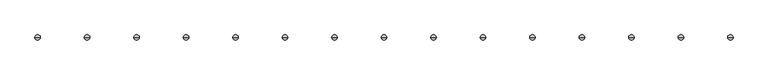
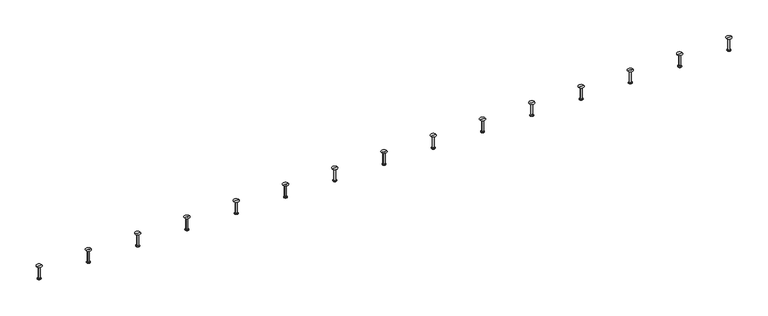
"""IFC4 building model written with IfcOpenShell, lengths in millimetres: fastener geometry, JTA-W JORDAHL® AnchorChannels : JTA-W L=6000 mm."""

from ifc_helpers import new_model, si_unit, frame, origin, place, context, project, spatial, polyline, circle_curve, source, transform, mapped, element, save
from ifc_brep_helpers import plane_surface, cylinder_surface, revolved_surface, advanced_brep


def fastener_ee92d8f7(model_context):
    return source(origin(), model_context, "Body", "AdvancedBrep", [
        advanced_brep(
        [(3991.6666667, 0.0, -22.0), (4005.1666667, 0.0, -22.0), (3978.1666667, 0.0, -22.0), (3983.1666667, 0.0, -90.0), (4000.1666667, 0.0, -90.0), (3991.6666667, 0.0, -90.0), (3983.1666667, 0.0, -88.0), (4000.1666667, 0.0, -88.0), (3987.1666667, 0.0, -85.6905989), (3996.1666667, 0.0, -85.6905989), (3987.1666667, 0.0, -24.5), (3996.1666667, 0.0, -24.5)],
        [
            (0, 1),
            (1, 2, circle_curve(frame((3991.6666667, 0.0, -22.0), z_axis=(0.0, 0.0, 1.0), x_axis=(1.0, 0.0, 0.0)), 13.5)),
            (2, 0),
            (2, 1, circle_curve(frame((3991.6666667, 0.0, -22.0), z_axis=(0.0, 0.0, 1.0), x_axis=(1.0, 0.0, 0.0)), 13.5)),
            (3, 4, circle_curve(frame((3991.6666667, 0.0, -90.0), z_axis=(0.0, 0.0, -1.0), x_axis=(1.0, 0.0, 0.0)), 8.5)),
            (4, 5),
            (5, 3),
            (4, 3, circle_curve(frame((3991.6666667, 0.0, -90.0), z_axis=(0.0, 0.0, -1.0), x_axis=(1.0, 0.0, 0.0)), 8.5)),
            (6, 7, circle_curve(frame((3991.6666667, 0.0, -88.0), z_axis=(0.0, 0.0, -1.0), x_axis=(1.0, 0.0, 0.0)), 8.5)),
            (7, 4),
            (3, 6),
            (7, 6, circle_curve(frame((3991.6666667, 0.0, -88.0), z_axis=(0.0, 0.0, -1.0), x_axis=(1.0, 0.0, 0.0)), 8.5)),
            (8, 9, circle_curve(frame((3991.6666667, 0.0, -85.6905989), z_axis=(0.0, 0.0, -1.0), x_axis=(1.0, 0.0, 0.0)), 4.5)),
            (9, 7),
            (6, 8),
            (9, 8, circle_curve(frame((3991.6666667, 0.0, -85.6905989), z_axis=(0.0, 0.0, -1.0), x_axis=(1.0, 0.0, 0.0)), 4.5)),
            (10, 11, circle_curve(frame((3991.6666667, 0.0, -24.5), z_axis=(0.0, 0.0, -1.0), x_axis=(1.0, 0.0, 0.0)), 4.5)),
            (11, 9),
            (8, 10),
            (11, 10, circle_curve(frame((3991.6666667, 0.0, -24.5), z_axis=(0.0, 0.0, -1.0), x_axis=(1.0, 0.0, 0.0)), 4.5)),
            (1, 11),
            (10, 2),
        ],
        [
            plane_surface(frame((3991.6666667, 0.0, -22.0), z_axis=(0.0, 0.0, 1.0), x_axis=(1.0, 0.0, 0.0))),
            plane_surface(frame((3991.6666667, 0.0, -90.0), z_axis=(0.0, 0.0, -1.0), x_axis=(1.0, 0.0, 0.0))),
            cylinder_surface(frame((3991.6666667, 0.0, 2282.3150031), z_axis=(0.0, 0.0, 1.0), x_axis=(1.0, 0.0, 0.0)), 8.5),
            revolved_surface(polyline([(4000.1666667, 0.0, -88.0), (3996.1666667, 0.0, -85.6905989)]), (3991.6666667, 0.0, 2282.3150031), (0.0, 0.0, 1.0)),
            cylinder_surface(frame((3991.6666667, 0.0, 2282.3150031), z_axis=(0.0, 0.0, 1.0), x_axis=(1.0, 0.0, 0.0)), 4.5),
            revolved_surface(polyline([(3996.1666667, 0.0, -24.5), (4005.1666667, 0.0, -22.0)]), (3991.6666667, 0.0, 2282.3150031), (0.0, 0.0, 1.0)),
        ],
        [
            (0, [[1, 2, 3]]),
            (0, [[-3, 4, -1]]),
            (1, [[5, 6, 7]]),
            (1, [[8, -7, -6]]),
            (2, [[9, 10, -5, 11]]),
            (2, [[12, -11, -8, -10]]),
            (3, [[13, 14, -9, 15]]),
            (3, [[16, -15, -12, -14]]),
            (4, [[17, 18, -13, 19]]),
            (4, [[20, -19, -16, -18]]),
            (5, [[-2, 21, -17, 22]]),
            (5, [[-4, -22, -20, -21]]),
        ],
    ),
        advanced_brep(
        [(3743.75, 0.0, -22.0), (3757.25, 0.0, -22.0), (3730.25, 0.0, -22.0), (3735.25, 0.0, -90.0), (3752.25, 0.0, -90.0), (3743.75, 0.0, -90.0), (3735.25, 0.0, -88.0), (3752.25, 0.0, -88.0), (3739.25, 0.0, -85.6905989), (3748.25, 0.0, -85.6905989), (3739.25, 0.0, -24.5), (3748.25, 0.0, -24.5)],
        [
            (0, 1),
            (1, 2, circle_curve(frame((3743.75, 0.0, -22.0), z_axis=(0.0, 0.0, 1.0), x_axis=(1.0, 0.0, 0.0)), 13.5)),
            (2, 0),
            (2, 1, circle_curve(frame((3743.75, 0.0, -22.0), z_axis=(0.0, 0.0, 1.0), x_axis=(1.0, 0.0, 0.0)), 13.5)),
            (3, 4, circle_curve(frame((3743.75, 0.0, -90.0), z_axis=(0.0, 0.0, -1.0), x_axis=(1.0, 0.0, 0.0)), 8.5)),
            (4, 5),
            (5, 3),
            (4, 3, circle_curve(frame((3743.75, 0.0, -90.0), z_axis=(0.0, 0.0, -1.0), x_axis=(1.0, 0.0, 0.0)), 8.5)),
            (6, 7, circle_curve(frame((3743.75, 0.0, -88.0), z_axis=(0.0, 0.0, -1.0), x_axis=(1.0, 0.0, 0.0)), 8.5)),
            (7, 4),
            (3, 6),
            (7, 6, circle_curve(frame((3743.75, 0.0, -88.0), z_axis=(0.0, 0.0, -1.0), x_axis=(1.0, 0.0, 0.0)), 8.5)),
            (8, 9, circle_curve(frame((3743.75, 0.0, -85.6905989), z_axis=(0.0, 0.0, -1.0), x_axis=(1.0, 0.0, 0.0)), 4.5)),
            (9, 7),
            (6, 8),
            (9, 8, circle_curve(frame((3743.75, 0.0, -85.6905989), z_axis=(0.0, 0.0, -1.0), x_axis=(1.0, 0.0, 0.0)), 4.5)),
            (10, 11, circle_curve(frame((3743.75, 0.0, -24.5), z_axis=(0.0, 0.0, -1.0), x_axis=(1.0, 0.0, 0.0)), 4.5)),
            (11, 9),
            (8, 10),
            (11, 10, circle_curve(frame((3743.75, 0.0, -24.5), z_axis=(0.0, 0.0, -1.0), x_axis=(1.0, 0.0, 0.0)), 4.5)),
            (1, 11),
            (10, 2),
        ],
        [
            plane_surface(frame((3743.75, 0.0, -22.0), z_axis=(0.0, 0.0, 1.0), x_axis=(1.0, 0.0, 0.0))),
            plane_surface(frame((3743.75, 0.0, -90.0), z_axis=(0.0, 0.0, -1.0), x_axis=(1.0, 0.0, 0.0))),
            cylinder_surface(frame((3743.75, 0.0, 2282.3150031), z_axis=(0.0, 0.0, 1.0), x_axis=(1.0, 0.0, 0.0)), 8.5),
            revolved_surface(polyline([(3752.25, 0.0, -88.0), (3748.25, 0.0, -85.6905989)]), (3743.75, 0.0, 2282.3150031), (0.0, 0.0, 1.0)),
            cylinder_surface(frame((3743.75, 0.0, 2282.3150031), z_axis=(0.0, 0.0, 1.0), x_axis=(1.0, 0.0, 0.0)), 4.5),
            revolved_surface(polyline([(3748.25, 0.0, -24.5), (3757.25, 0.0, -22.0)]), (3743.75, 0.0, 2282.3150031), (0.0, 0.0, 1.0)),
        ],
        [
            (0, [[1, 2, 3]]),
            (0, [[-3, 4, -1]]),
            (1, [[5, 6, 7]]),
            (1, [[8, -7, -6]]),
            (2, [[9, 10, -5, 11]]),
            (2, [[12, -11, -8, -10]]),
            (3, [[13, 14, -9, 15]]),
            (3, [[16, -15, -12, -14]]),
            (4, [[17, 18, -13, 19]]),
            (4, [[20, -19, -16, -18]]),
            (5, [[-2, 21, -17, 22]]),
            (5, [[-4, -22, -20, -21]]),
        ],
    ),
        advanced_brep(
        [(3495.8333333, 0.0, -22.0), (3509.3333333, 0.0, -22.0), (3482.3333333, 0.0, -22.0), (3487.3333333, 0.0, -90.0), (3504.3333333, 0.0, -90.0), (3495.8333333, 0.0, -90.0), (3487.3333333, 0.0, -88.0), (3504.3333333, 0.0, -88.0), (3491.3333333, 0.0, -85.6905989), (3500.3333333, 0.0, -85.6905989), (3491.3333333, 0.0, -24.5), (3500.3333333, 0.0, -24.5)],
        [
            (0, 1),
            (1, 2, circle_curve(frame((3495.8333333, 0.0, -22.0), z_axis=(0.0, 0.0, 1.0), x_axis=(1.0, 0.0, 0.0)), 13.5)),
            (2, 0),
            (2, 1, circle_curve(frame((3495.8333333, 0.0, -22.0), z_axis=(0.0, 0.0, 1.0), x_axis=(1.0, 0.0, 0.0)), 13.5)),
            (3, 4, circle_curve(frame((3495.8333333, 0.0, -90.0), z_axis=(0.0, 0.0, -1.0), x_axis=(1.0, 0.0, 0.0)), 8.5)),
            (4, 5),
            (5, 3),
            (4, 3, circle_curve(frame((3495.8333333, 0.0, -90.0), z_axis=(0.0, 0.0, -1.0), x_axis=(1.0, 0.0, 0.0)), 8.5)),
            (6, 7, circle_curve(frame((3495.8333333, 0.0, -88.0), z_axis=(0.0, 0.0, -1.0), x_axis=(1.0, 0.0, 0.0)), 8.5)),
            (7, 4),
            (3, 6),
            (7, 6, circle_curve(frame((3495.8333333, 0.0, -88.0), z_axis=(0.0, 0.0, -1.0), x_axis=(1.0, 0.0, 0.0)), 8.5)),
            (8, 9, circle_curve(frame((3495.8333333, 0.0, -85.6905989), z_axis=(0.0, 0.0, -1.0), x_axis=(1.0, 0.0, 0.0)), 4.5)),
            (9, 7),
            (6, 8),
            (9, 8, circle_curve(frame((3495.8333333, 0.0, -85.6905989), z_axis=(0.0, 0.0, -1.0), x_axis=(1.0, 0.0, 0.0)), 4.5)),
            (10, 11, circle_curve(frame((3495.8333333, 0.0, -24.5), z_axis=(0.0, 0.0, -1.0), x_axis=(1.0, 0.0, 0.0)), 4.5)),
            (11, 9),
            (8, 10),
            (11, 10, circle_curve(frame((3495.8333333, 0.0, -24.5), z_axis=(0.0, 0.0, -1.0), x_axis=(1.0, 0.0, 0.0)), 4.5)),
            (1, 11),
            (10, 2),
        ],
        [
            plane_surface(frame((3495.8333333, 0.0, -22.0), z_axis=(0.0, 0.0, 1.0), x_axis=(1.0, 0.0, 0.0))),
            plane_surface(frame((3495.8333333, 0.0, -90.0), z_axis=(0.0, 0.0, -1.0), x_axis=(1.0, 0.0, 0.0))),
            cylinder_surface(frame((3495.8333333, 0.0, 2282.3150031), z_axis=(0.0, 0.0, 1.0), x_axis=(1.0, 0.0, 0.0)), 8.5),
            revolved_surface(polyline([(3504.3333333, 0.0, -88.0), (3500.3333333, 0.0, -85.6905989)]), (3495.8333333, 0.0, 2282.3150031), (0.0, 0.0, 1.0)),
            cylinder_surface(frame((3495.8333333, 0.0, 2282.3150031), z_axis=(0.0, 0.0, 1.0), x_axis=(1.0, 0.0, 0.0)), 4.5),
            revolved_surface(polyline([(3500.3333333, 0.0, -24.5), (3509.3333333, 0.0, -22.0)]), (3495.8333333, 0.0, 2282.3150031), (0.0, 0.0, 1.0)),
        ],
        [
            (0, [[1, 2, 3]]),
            (0, [[-3, 4, -1]]),
            (1, [[5, 6, 7]]),
            (1, [[8, -7, -6]]),
            (2, [[9, 10, -5, 11]]),
            (2, [[12, -11, -8, -10]]),
            (3, [[13, 14, -9, 15]]),
            (3, [[16, -15, -12, -14]]),
            (4, [[17, 18, -13, 19]]),
            (4, [[20, -19, -16, -18]]),
            (5, [[-2, 21, -17, 22]]),
            (5, [[-4, -22, -20, -21]]),
        ],
    ),
        advanced_brep(
        [(3247.9166667, 0.0, -22.0), (3261.4166667, 0.0, -22.0), (3234.4166667, 0.0, -22.0), (3239.4166667, 0.0, -90.0), (3256.4166667, 0.0, -90.0), (3247.9166667, 0.0, -90.0), (3239.4166667, 0.0, -88.0), (3256.4166667, 0.0, -88.0), (3243.4166667, 0.0, -85.6905989), (3252.4166667, 0.0, -85.6905989), (3243.4166667, 0.0, -24.5), (3252.4166667, 0.0, -24.5)],
        [
            (0, 1),
            (1, 2, circle_curve(frame((3247.9166667, 0.0, -22.0), z_axis=(0.0, 0.0, 1.0), x_axis=(1.0, 0.0, 0.0)), 13.5)),
            (2, 0),
            (2, 1, circle_curve(frame((3247.9166667, 0.0, -22.0), z_axis=(0.0, 0.0, 1.0), x_axis=(1.0, 0.0, 0.0)), 13.5)),
            (3, 4, circle_curve(frame((3247.9166667, 0.0, -90.0), z_axis=(0.0, 0.0, -1.0), x_axis=(1.0, 0.0, 0.0)), 8.5)),
            (4, 5),
            (5, 3),
            (4, 3, circle_curve(frame((3247.9166667, 0.0, -90.0), z_axis=(0.0, 0.0, -1.0), x_axis=(1.0, 0.0, 0.0)), 8.5)),
            (6, 7, circle_curve(frame((3247.9166667, 0.0, -88.0), z_axis=(0.0, 0.0, -1.0), x_axis=(1.0, 0.0, 0.0)), 8.5)),
            (7, 4),
            (3, 6),
            (7, 6, circle_curve(frame((3247.9166667, 0.0, -88.0), z_axis=(0.0, 0.0, -1.0), x_axis=(1.0, 0.0, 0.0)), 8.5)),
            (8, 9, circle_curve(frame((3247.9166667, 0.0, -85.6905989), z_axis=(0.0, 0.0, -1.0), x_axis=(1.0, 0.0, 0.0)), 4.5)),
            (9, 7),
            (6, 8),
            (9, 8, circle_curve(frame((3247.9166667, 0.0, -85.6905989), z_axis=(0.0, 0.0, -1.0), x_axis=(1.0, 0.0, 0.0)), 4.5)),
            (10, 11, circle_curve(frame((3247.9166667, 0.0, -24.5), z_axis=(0.0, 0.0, -1.0), x_axis=(1.0, 0.0, 0.0)), 4.5)),
            (11, 9),
            (8, 10),
            (11, 10, circle_curve(frame((3247.9166667, 0.0, -24.5), z_axis=(0.0, 0.0, -1.0), x_axis=(1.0, 0.0, 0.0)), 4.5)),
            (1, 11),
            (10, 2),
        ],
        [
            plane_surface(frame((3247.9166667, 0.0, -22.0), z_axis=(0.0, 0.0, 1.0), x_axis=(1.0, 0.0, 0.0))),
            plane_surface(frame((3247.9166667, 0.0, -90.0), z_axis=(0.0, 0.0, -1.0), x_axis=(1.0, 0.0, 0.0))),
            cylinder_surface(frame((3247.9166667, 0.0, 2282.3150031), z_axis=(0.0, 0.0, 1.0), x_axis=(1.0, 0.0, 0.0)), 8.5),
            revolved_surface(polyline([(3256.4166667, 0.0, -88.0), (3252.4166667, 0.0, -85.6905989)]), (3247.9166667, 0.0, 2282.3150031), (0.0, 0.0, 1.0)),
            cylinder_surface(frame((3247.9166667, 0.0, 2282.3150031), z_axis=(0.0, 0.0, 1.0), x_axis=(1.0, 0.0, 0.0)), 4.5),
            revolved_surface(polyline([(3252.4166667, 0.0, -24.5), (3261.4166667, 0.0, -22.0)]), (3247.9166667, 0.0, 2282.3150031), (0.0, 0.0, 1.0)),
        ],
        [
            (0, [[1, 2, 3]]),
            (0, [[-3, 4, -1]]),
            (1, [[5, 6, 7]]),
            (1, [[8, -7, -6]]),
            (2, [[9, 10, -5, 11]]),
            (2, [[12, -11, -8, -10]]),
            (3, [[13, 14, -9, 15]]),
            (3, [[16, -15, -12, -14]]),
            (4, [[17, 18, -13, 19]]),
            (4, [[20, -19, -16, -18]]),
            (5, [[-2, 21, -17, 22]]),
            (5, [[-4, -22, -20, -21]]),
        ],
    ),
        advanced_brep(
        [(3000.0, 0.0, -22.0), (3013.5, 0.0, -22.0), (2986.5, 0.0, -22.0), (2991.5, 0.0, -90.0), (3008.5, 0.0, -90.0), (3000.0, 0.0, -90.0), (2991.5, 0.0, -88.0), (3008.5, 0.0, -88.0), (2995.5, 0.0, -85.6905989), (3004.5, 0.0, -85.6905989), (2995.5, 0.0, -24.5), (3004.5, 0.0, -24.5)],
        [
            (0, 1),
            (1, 2, circle_curve(frame((3000.0, 0.0, -22.0), z_axis=(0.0, 0.0, 1.0), x_axis=(1.0, 0.0, 0.0)), 13.5)),
            (2, 0),
            (2, 1, circle_curve(frame((3000.0, 0.0, -22.0), z_axis=(0.0, 0.0, 1.0), x_axis=(1.0, 0.0, 0.0)), 13.5)),
            (3, 4, circle_curve(frame((3000.0, 0.0, -90.0), z_axis=(0.0, 0.0, -1.0), x_axis=(1.0, 0.0, 0.0)), 8.5)),
            (4, 5),
            (5, 3),
            (4, 3, circle_curve(frame((3000.0, 0.0, -90.0), z_axis=(0.0, 0.0, -1.0), x_axis=(1.0, 0.0, 0.0)), 8.5)),
            (6, 7, circle_curve(frame((3000.0, 0.0, -88.0), z_axis=(0.0, 0.0, -1.0), x_axis=(1.0, 0.0, 0.0)), 8.5)),
            (7, 4),
            (3, 6),
            (7, 6, circle_curve(frame((3000.0, 0.0, -88.0), z_axis=(0.0, 0.0, -1.0), x_axis=(1.0, 0.0, 0.0)), 8.5)),
            (8, 9, circle_curve(frame((3000.0, 0.0, -85.6905989), z_axis=(0.0, 0.0, -1.0), x_axis=(1.0, 0.0, 0.0)), 4.5)),
            (9, 7),
            (6, 8),
            (9, 8, circle_curve(frame((3000.0, 0.0, -85.6905989), z_axis=(0.0, 0.0, -1.0), x_axis=(1.0, 0.0, 0.0)), 4.5)),
            (10, 11, circle_curve(frame((3000.0, 0.0, -24.5), z_axis=(0.0, 0.0, -1.0), x_axis=(1.0, 0.0, 0.0)), 4.5)),
            (11, 9),
            (8, 10),
            (11, 10, circle_curve(frame((3000.0, 0.0, -24.5), z_axis=(0.0, 0.0, -1.0), x_axis=(1.0, 0.0, 0.0)), 4.5)),
            (1, 11),
            (10, 2),
        ],
        [
            plane_surface(frame((3000.0, 0.0, -22.0), z_axis=(0.0, 0.0, 1.0), x_axis=(1.0, 0.0, 0.0))),
            plane_surface(frame((3000.0, 0.0, -90.0), z_axis=(0.0, 0.0, -1.0), x_axis=(1.0, 0.0, 0.0))),
            cylinder_surface(frame((3000.0, 0.0, 2282.3150031), z_axis=(0.0, 0.0, 1.0), x_axis=(1.0, 0.0, 0.0)), 8.5),
            revolved_surface(polyline([(3008.5, 0.0, -88.0), (3004.5, 0.0, -85.6905989)]), (3000.0, 0.0, 2282.3150031), (0.0, 0.0, 1.0)),
            cylinder_surface(frame((3000.0, 0.0, 2282.3150031), z_axis=(0.0, 0.0, 1.0), x_axis=(1.0, 0.0, 0.0)), 4.5),
            revolved_surface(polyline([(3004.5, 0.0, -24.5), (3013.5, 0.0, -22.0)]), (3000.0, 0.0, 2282.3150031), (0.0, 0.0, 1.0)),
        ],
        [
            (0, [[1, 2, 3]]),
            (0, [[-3, 4, -1]]),
            (1, [[5, 6, 7]]),
            (1, [[8, -7, -6]]),
            (2, [[9, 10, -5, 11]]),
            (2, [[12, -11, -8, -10]]),
            (3, [[13, 14, -9, 15]]),
            (3, [[16, -15, -12, -14]]),
            (4, [[17, 18, -13, 19]]),
            (4, [[20, -19, -16, -18]]),
            (5, [[-2, 21, -17, 22]]),
            (5, [[-4, -22, -20, -21]]),
        ],
    ),
        advanced_brep(
        [(2752.0833333, 0.0, -22.0), (2765.5833333, 0.0, -22.0), (2738.5833333, 0.0, -22.0), (2743.5833333, 0.0, -90.0), (2760.5833333, 0.0, -90.0), (2752.0833333, 0.0, -90.0), (2743.5833333, 0.0, -88.0), (2760.5833333, 0.0, -88.0), (2747.5833333, 0.0, -85.6905989), (2756.5833333, 0.0, -85.6905989), (2747.5833333, 0.0, -24.5), (2756.5833333, 0.0, -24.5)],
        [
            (0, 1),
            (1, 2, circle_curve(frame((2752.0833333, 0.0, -22.0), z_axis=(0.0, 0.0, 1.0), x_axis=(1.0, 0.0, 0.0)), 13.5)),
            (2, 0),
            (2, 1, circle_curve(frame((2752.0833333, 0.0, -22.0), z_axis=(0.0, 0.0, 1.0), x_axis=(1.0, 0.0, 0.0)), 13.5)),
            (3, 4, circle_curve(frame((2752.0833333, 0.0, -90.0), z_axis=(0.0, 0.0, -1.0), x_axis=(1.0, 0.0, 0.0)), 8.5)),
            (4, 5),
            (5, 3),
            (4, 3, circle_curve(frame((2752.0833333, 0.0, -90.0), z_axis=(0.0, 0.0, -1.0), x_axis=(1.0, 0.0, 0.0)), 8.5)),
            (6, 7, circle_curve(frame((2752.0833333, 0.0, -88.0), z_axis=(0.0, 0.0, -1.0), x_axis=(1.0, 0.0, 0.0)), 8.5)),
            (7, 4),
            (3, 6),
            (7, 6, circle_curve(frame((2752.0833333, 0.0, -88.0), z_axis=(0.0, 0.0, -1.0), x_axis=(1.0, 0.0, 0.0)), 8.5)),
            (8, 9, circle_curve(frame((2752.0833333, 0.0, -85.6905989), z_axis=(0.0, 0.0, -1.0), x_axis=(1.0, 0.0, 0.0)), 4.5)),
            (9, 7),
            (6, 8),
            (9, 8, circle_curve(frame((2752.0833333, 0.0, -85.6905989), z_axis=(0.0, 0.0, -1.0), x_axis=(1.0, 0.0, 0.0)), 4.5)),
            (10, 11, circle_curve(frame((2752.0833333, 0.0, -24.5), z_axis=(0.0, 0.0, -1.0), x_axis=(1.0, 0.0, 0.0)), 4.5)),
            (11, 9),
            (8, 10),
            (11, 10, circle_curve(frame((2752.0833333, 0.0, -24.5), z_axis=(0.0, 0.0, -1.0), x_axis=(1.0, 0.0, 0.0)), 4.5)),
            (1, 11),
            (10, 2),
        ],
        [
            plane_surface(frame((2752.0833333, 0.0, -22.0), z_axis=(0.0, 0.0, 1.0), x_axis=(1.0, 0.0, 0.0))),
            plane_surface(frame((2752.0833333, 0.0, -90.0), z_axis=(0.0, 0.0, -1.0), x_axis=(1.0, 0.0, 0.0))),
            cylinder_surface(frame((2752.0833333, 0.0, 2282.3150031), z_axis=(0.0, 0.0, 1.0), x_axis=(1.0, 0.0, 0.0)), 8.5),
            revolved_surface(polyline([(2760.5833333, 0.0, -88.0), (2756.5833333, 0.0, -85.6905989)]), (2752.0833333, 0.0, 2282.3150031), (0.0, 0.0, 1.0)),
            cylinder_surface(frame((2752.0833333, 0.0, 2282.3150031), z_axis=(0.0, 0.0, 1.0), x_axis=(1.0, 0.0, 0.0)), 4.5),
            revolved_surface(polyline([(2756.5833333, 0.0, -24.5), (2765.5833333, 0.0, -22.0)]), (2752.0833333, 0.0, 2282.3150031), (0.0, 0.0, 1.0)),
        ],
        [
            (0, [[1, 2, 3]]),
            (0, [[-3, 4, -1]]),
            (1, [[5, 6, 7]]),
            (1, [[8, -7, -6]]),
            (2, [[9, 10, -5, 11]]),
            (2, [[12, -11, -8, -10]]),
            (3, [[13, 14, -9, 15]]),
            (3, [[16, -15, -12, -14]]),
            (4, [[17, 18, -13, 19]]),
            (4, [[20, -19, -16, -18]]),
            (5, [[-2, 21, -17, 22]]),
            (5, [[-4, -22, -20, -21]]),
        ],
    ),
        advanced_brep(
        [(2504.1666667, 0.0, -22.0), (2517.6666667, 0.0, -22.0), (2490.6666667, 0.0, -22.0), (2495.6666667, 0.0, -90.0), (2512.6666667, 0.0, -90.0), (2504.1666667, 0.0, -90.0), (2495.6666667, 0.0, -88.0), (2512.6666667, 0.0, -88.0), (2499.6666667, 0.0, -85.6905989), (2508.6666667, 0.0, -85.6905989), (2499.6666667, 0.0, -24.5), (2508.6666667, 0.0, -24.5)],
        [
            (0, 1),
            (1, 2, circle_curve(frame((2504.1666667, 0.0, -22.0), z_axis=(0.0, 0.0, 1.0), x_axis=(1.0, 0.0, 0.0)), 13.5)),
            (2, 0),
            (2, 1, circle_curve(frame((2504.1666667, 0.0, -22.0), z_axis=(0.0, 0.0, 1.0), x_axis=(1.0, 0.0, 0.0)), 13.5)),
            (3, 4, circle_curve(frame((2504.1666667, 0.0, -90.0), z_axis=(0.0, 0.0, -1.0), x_axis=(1.0, 0.0, 0.0)), 8.5)),
            (4, 5),
            (5, 3),
            (4, 3, circle_curve(frame((2504.1666667, 0.0, -90.0), z_axis=(0.0, 0.0, -1.0), x_axis=(1.0, 0.0, 0.0)), 8.5)),
            (6, 7, circle_curve(frame((2504.1666667, 0.0, -88.0), z_axis=(0.0, 0.0, -1.0), x_axis=(1.0, 0.0, 0.0)), 8.5)),
            (7, 4),
            (3, 6),
            (7, 6, circle_curve(frame((2504.1666667, 0.0, -88.0), z_axis=(0.0, 0.0, -1.0), x_axis=(1.0, 0.0, 0.0)), 8.5)),
            (8, 9, circle_curve(frame((2504.1666667, 0.0, -85.6905989), z_axis=(0.0, 0.0, -1.0), x_axis=(1.0, 0.0, 0.0)), 4.5)),
            (9, 7),
            (6, 8),
            (9, 8, circle_curve(frame((2504.1666667, 0.0, -85.6905989), z_axis=(0.0, 0.0, -1.0), x_axis=(1.0, 0.0, 0.0)), 4.5)),
            (10, 11, circle_curve(frame((2504.1666667, 0.0, -24.5), z_axis=(0.0, 0.0, -1.0), x_axis=(1.0, 0.0, 0.0)), 4.5)),
            (11, 9),
            (8, 10),
            (11, 10, circle_curve(frame((2504.1666667, 0.0, -24.5), z_axis=(0.0, 0.0, -1.0), x_axis=(1.0, 0.0, 0.0)), 4.5)),
            (1, 11),
            (10, 2),
        ],
        [
            plane_surface(frame((2504.1666667, 0.0, -22.0), z_axis=(0.0, 0.0, 1.0), x_axis=(1.0, 0.0, 0.0))),
            plane_surface(frame((2504.1666667, 0.0, -90.0), z_axis=(0.0, 0.0, -1.0), x_axis=(1.0, 0.0, 0.0))),
            cylinder_surface(frame((2504.1666667, 0.0, 2282.3150031), z_axis=(0.0, 0.0, 1.0), x_axis=(1.0, 0.0, 0.0)), 8.5),
            revolved_surface(polyline([(2512.6666667, 0.0, -88.0), (2508.6666667, 0.0, -85.6905989)]), (2504.1666667, 0.0, 2282.3150031), (0.0, 0.0, 1.0)),
            cylinder_surface(frame((2504.1666667, 0.0, 2282.3150031), z_axis=(0.0, 0.0, 1.0), x_axis=(1.0, 0.0, 0.0)), 4.5),
            revolved_surface(polyline([(2508.6666667, 0.0, -24.5), (2517.6666667, 0.0, -22.0)]), (2504.1666667, 0.0, 2282.3150031), (0.0, 0.0, 1.0)),
        ],
        [
            (0, [[1, 2, 3]]),
            (0, [[-3, 4, -1]]),
            (1, [[5, 6, 7]]),
            (1, [[8, -7, -6]]),
            (2, [[9, 10, -5, 11]]),
            (2, [[12, -11, -8, -10]]),
            (3, [[13, 14, -9, 15]]),
            (3, [[16, -15, -12, -14]]),
            (4, [[17, 18, -13, 19]]),
            (4, [[20, -19, -16, -18]]),
            (5, [[-2, 21, -17, 22]]),
            (5, [[-4, -22, -20, -21]]),
        ],
    ),
        advanced_brep(
        [(2256.25, 0.0, -22.0), (2269.75, 0.0, -22.0), (2242.75, 0.0, -22.0), (2247.75, 0.0, -90.0), (2264.75, 0.0, -90.0), (2256.25, 0.0, -90.0), (2247.75, 0.0, -88.0), (2264.75, 0.0, -88.0), (2251.75, 0.0, -85.6905989), (2260.75, 0.0, -85.6905989), (2251.75, 0.0, -24.5), (2260.75, 0.0, -24.5)],
        [
            (0, 1),
            (1, 2, circle_curve(frame((2256.25, 0.0, -22.0), z_axis=(0.0, 0.0, 1.0), x_axis=(1.0, 0.0, 0.0)), 13.5)),
            (2, 0),
            (2, 1, circle_curve(frame((2256.25, 0.0, -22.0), z_axis=(0.0, 0.0, 1.0), x_axis=(1.0, 0.0, 0.0)), 13.5)),
            (3, 4, circle_curve(frame((2256.25, 0.0, -90.0), z_axis=(0.0, 0.0, -1.0), x_axis=(1.0, 0.0, 0.0)), 8.5)),
            (4, 5),
            (5, 3),
            (4, 3, circle_curve(frame((2256.25, 0.0, -90.0), z_axis=(0.0, 0.0, -1.0), x_axis=(1.0, 0.0, 0.0)), 8.5)),
            (6, 7, circle_curve(frame((2256.25, 0.0, -88.0), z_axis=(0.0, 0.0, -1.0), x_axis=(1.0, 0.0, 0.0)), 8.5)),
            (7, 4),
            (3, 6),
            (7, 6, circle_curve(frame((2256.25, 0.0, -88.0), z_axis=(0.0, 0.0, -1.0), x_axis=(1.0, 0.0, 0.0)), 8.5)),
            (8, 9, circle_curve(frame((2256.25, 0.0, -85.6905989), z_axis=(0.0, 0.0, -1.0), x_axis=(1.0, 0.0, 0.0)), 4.5)),
            (9, 7),
            (6, 8),
            (9, 8, circle_curve(frame((2256.25, 0.0, -85.6905989), z_axis=(0.0, 0.0, -1.0), x_axis=(1.0, 0.0, 0.0)), 4.5)),
            (10, 11, circle_curve(frame((2256.25, 0.0, -24.5), z_axis=(0.0, 0.0, -1.0), x_axis=(1.0, 0.0, 0.0)), 4.5)),
            (11, 9),
            (8, 10),
            (11, 10, circle_curve(frame((2256.25, 0.0, -24.5), z_axis=(0.0, 0.0, -1.0), x_axis=(1.0, 0.0, 0.0)), 4.5)),
            (1, 11),
            (10, 2),
        ],
        [
            plane_surface(frame((2256.25, 0.0, -22.0), z_axis=(0.0, 0.0, 1.0), x_axis=(1.0, 0.0, 0.0))),
            plane_surface(frame((2256.25, 0.0, -90.0), z_axis=(0.0, 0.0, -1.0), x_axis=(1.0, 0.0, 0.0))),
            cylinder_surface(frame((2256.25, 0.0, 2282.3150031), z_axis=(0.0, 0.0, 1.0), x_axis=(1.0, 0.0, 0.0)), 8.5),
            revolved_surface(polyline([(2264.75, 0.0, -88.0), (2260.75, 0.0, -85.6905989)]), (2256.25, 0.0, 2282.3150031), (0.0, 0.0, 1.0)),
            cylinder_surface(frame((2256.25, 0.0, 2282.3150031), z_axis=(0.0, 0.0, 1.0), x_axis=(1.0, 0.0, 0.0)), 4.5),
            revolved_surface(polyline([(2260.75, 0.0, -24.5), (2269.75, 0.0, -22.0)]), (2256.25, 0.0, 2282.3150031), (0.0, 0.0, 1.0)),
        ],
        [
            (0, [[1, 2, 3]]),
            (0, [[-3, 4, -1]]),
            (1, [[5, 6, 7]]),
            (1, [[8, -7, -6]]),
            (2, [[9, 10, -5, 11]]),
            (2, [[12, -11, -8, -10]]),
            (3, [[13, 14, -9, 15]]),
            (3, [[16, -15, -12, -14]]),
            (4, [[17, 18, -13, 19]]),
            (4, [[20, -19, -16, -18]]),
            (5, [[-2, 21, -17, 22]]),
            (5, [[-4, -22, -20, -21]]),
        ],
    ),
        advanced_brep(
        [(2008.3333333, 0.0, -22.0), (2021.8333333, 0.0, -22.0), (1994.8333333, 0.0, -22.0), (1999.8333333, 0.0, -90.0), (2016.8333333, 0.0, -90.0), (2008.3333333, 0.0, -90.0), (1999.8333333, 0.0, -88.0), (2016.8333333, 0.0, -88.0), (2003.8333333, 0.0, -85.6905989), (2012.8333333, 0.0, -85.6905989), (2003.8333333, 0.0, -24.5), (2012.8333333, 0.0, -24.5)],
        [
            (0, 1),
            (1, 2, circle_curve(frame((2008.3333333, 0.0, -22.0), z_axis=(0.0, 0.0, 1.0), x_axis=(1.0, 0.0, 0.0)), 13.5)),
            (2, 0),
            (2, 1, circle_curve(frame((2008.3333333, 0.0, -22.0), z_axis=(0.0, 0.0, 1.0), x_axis=(1.0, 0.0, 0.0)), 13.5)),
            (3, 4, circle_curve(frame((2008.3333333, 0.0, -90.0), z_axis=(0.0, 0.0, -1.0), x_axis=(1.0, 0.0, 0.0)), 8.5)),
            (4, 5),
            (5, 3),
            (4, 3, circle_curve(frame((2008.3333333, 0.0, -90.0), z_axis=(0.0, 0.0, -1.0), x_axis=(1.0, 0.0, 0.0)), 8.5)),
            (6, 7, circle_curve(frame((2008.3333333, 0.0, -88.0), z_axis=(0.0, 0.0, -1.0), x_axis=(1.0, 0.0, 0.0)), 8.5)),
            (7, 4),
            (3, 6),
            (7, 6, circle_curve(frame((2008.3333333, 0.0, -88.0), z_axis=(0.0, 0.0, -1.0), x_axis=(1.0, 0.0, 0.0)), 8.5)),
            (8, 9, circle_curve(frame((2008.3333333, 0.0, -85.6905989), z_axis=(0.0, 0.0, -1.0), x_axis=(1.0, 0.0, 0.0)), 4.5)),
            (9, 7),
            (6, 8),
            (9, 8, circle_curve(frame((2008.3333333, 0.0, -85.6905989), z_axis=(0.0, 0.0, -1.0), x_axis=(1.0, 0.0, 0.0)), 4.5)),
            (10, 11, circle_curve(frame((2008.3333333, 0.0, -24.5), z_axis=(0.0, 0.0, -1.0), x_axis=(1.0, 0.0, 0.0)), 4.5)),
            (11, 9),
            (8, 10),
            (11, 10, circle_curve(frame((2008.3333333, 0.0, -24.5), z_axis=(0.0, 0.0, -1.0), x_axis=(1.0, 0.0, 0.0)), 4.5)),
            (1, 11),
            (10, 2),
        ],
        [
            plane_surface(frame((2008.3333333, 0.0, -22.0), z_axis=(0.0, 0.0, 1.0), x_axis=(1.0, 0.0, 0.0))),
            plane_surface(frame((2008.3333333, 0.0, -90.0), z_axis=(0.0, 0.0, -1.0), x_axis=(1.0, 0.0, 0.0))),
            cylinder_surface(frame((2008.3333333, 0.0, 2282.3150031), z_axis=(0.0, 0.0, 1.0), x_axis=(1.0, 0.0, 0.0)), 8.5),
            revolved_surface(polyline([(2016.8333333, 0.0, -88.0), (2012.8333333, 0.0, -85.6905989)]), (2008.3333333, 0.0, 2282.3150031), (0.0, 0.0, 1.0)),
            cylinder_surface(frame((2008.3333333, 0.0, 2282.3150031), z_axis=(0.0, 0.0, 1.0), x_axis=(1.0, 0.0, 0.0)), 4.5),
            revolved_surface(polyline([(2012.8333333, 0.0, -24.5), (2021.8333333, 0.0, -22.0)]), (2008.3333333, 0.0, 2282.3150031), (0.0, 0.0, 1.0)),
        ],
        [
            (0, [[1, 2, 3]]),
            (0, [[-3, 4, -1]]),
            (1, [[5, 6, 7]]),
            (1, [[8, -7, -6]]),
            (2, [[9, 10, -5, 11]]),
            (2, [[12, -11, -8, -10]]),
            (3, [[13, 14, -9, 15]]),
            (3, [[16, -15, -12, -14]]),
            (4, [[17, 18, -13, 19]]),
            (4, [[20, -19, -16, -18]]),
            (5, [[-2, 21, -17, 22]]),
            (5, [[-4, -22, -20, -21]]),
        ],
    ),
        advanced_brep(
        [(1760.4166667, 0.0, -22.0), (1773.9166667, 0.0, -22.0), (1746.9166667, 0.0, -22.0), (1751.9166667, 0.0, -90.0), (1768.9166667, 0.0, -90.0), (1760.4166667, 0.0, -90.0), (1751.9166667, 0.0, -88.0), (1768.9166667, 0.0, -88.0), (1755.9166667, 0.0, -85.6905989), (1764.9166667, 0.0, -85.6905989), (1755.9166667, 0.0, -24.5), (1764.9166667, 0.0, -24.5)],
        [
            (0, 1),
            (1, 2, circle_curve(frame((1760.4166667, 0.0, -22.0), z_axis=(0.0, 0.0, 1.0), x_axis=(1.0, 0.0, 0.0)), 13.5)),
            (2, 0),
            (2, 1, circle_curve(frame((1760.4166667, 0.0, -22.0), z_axis=(0.0, 0.0, 1.0), x_axis=(1.0, 0.0, 0.0)), 13.5)),
            (3, 4, circle_curve(frame((1760.4166667, 0.0, -90.0), z_axis=(0.0, 0.0, -1.0), x_axis=(1.0, 0.0, 0.0)), 8.5)),
            (4, 5),
            (5, 3),
            (4, 3, circle_curve(frame((1760.4166667, 0.0, -90.0), z_axis=(0.0, 0.0, -1.0), x_axis=(1.0, 0.0, 0.0)), 8.5)),
            (6, 7, circle_curve(frame((1760.4166667, 0.0, -88.0), z_axis=(0.0, 0.0, -1.0), x_axis=(1.0, 0.0, 0.0)), 8.5)),
            (7, 4),
            (3, 6),
            (7, 6, circle_curve(frame((1760.4166667, 0.0, -88.0), z_axis=(0.0, 0.0, -1.0), x_axis=(1.0, 0.0, 0.0)), 8.5)),
            (8, 9, circle_curve(frame((1760.4166667, 0.0, -85.6905989), z_axis=(0.0, 0.0, -1.0), x_axis=(1.0, 0.0, 0.0)), 4.5)),
            (9, 7),
            (6, 8),
            (9, 8, circle_curve(frame((1760.4166667, 0.0, -85.6905989), z_axis=(0.0, 0.0, -1.0), x_axis=(1.0, 0.0, 0.0)), 4.5)),
            (10, 11, circle_curve(frame((1760.4166667, 0.0, -24.5), z_axis=(0.0, 0.0, -1.0), x_axis=(1.0, 0.0, 0.0)), 4.5)),
            (11, 9),
            (8, 10),
            (11, 10, circle_curve(frame((1760.4166667, 0.0, -24.5), z_axis=(0.0, 0.0, -1.0), x_axis=(1.0, 0.0, 0.0)), 4.5)),
            (1, 11),
            (10, 2),
        ],
        [
            plane_surface(frame((1760.4166667, 0.0, -22.0), z_axis=(0.0, 0.0, 1.0), x_axis=(1.0, 0.0, 0.0))),
            plane_surface(frame((1760.4166667, 0.0, -90.0), z_axis=(0.0, 0.0, -1.0), x_axis=(1.0, 0.0, 0.0))),
            cylinder_surface(frame((1760.4166667, 0.0, 2282.3150031), z_axis=(0.0, 0.0, 1.0), x_axis=(1.0, 0.0, 0.0)), 8.5),
            revolved_surface(polyline([(1768.9166667, 0.0, -88.0), (1764.9166667, 0.0, -85.6905989)]), (1760.4166667, 0.0, 2282.3150031), (0.0, 0.0, 1.0)),
            cylinder_surface(frame((1760.4166667, 0.0, 2282.3150031), z_axis=(0.0, 0.0, 1.0), x_axis=(1.0, 0.0, 0.0)), 4.5),
            revolved_surface(polyline([(1764.9166667, 0.0, -24.5), (1773.9166667, 0.0, -22.0)]), (1760.4166667, 0.0, 2282.3150031), (0.0, 0.0, 1.0)),
        ],
        [
            (0, [[1, 2, 3]]),
            (0, [[-3, 4, -1]]),
            (1, [[5, 6, 7]]),
            (1, [[8, -7, -6]]),
            (2, [[9, 10, -5, 11]]),
            (2, [[12, -11, -8, -10]]),
            (3, [[13, 14, -9, 15]]),
            (3, [[16, -15, -12, -14]]),
            (4, [[17, 18, -13, 19]]),
            (4, [[20, -19, -16, -18]]),
            (5, [[-2, 21, -17, 22]]),
            (5, [[-4, -22, -20, -21]]),
        ],
    ),
        advanced_brep(
        [(1512.5, 0.0, -22.0), (1526.0, 0.0, -22.0), (1499.0, 0.0, -22.0), (1504.0, 0.0, -90.0), (1521.0, 0.0, -90.0), (1512.5, 0.0, -90.0), (1504.0, 0.0, -88.0), (1521.0, 0.0, -88.0), (1508.0, 0.0, -85.6905989), (1517.0, 0.0, -85.6905989), (1508.0, 0.0, -24.5), (1517.0, 0.0, -24.5)],
        [
            (0, 1),
            (1, 2, circle_curve(frame((1512.5, 0.0, -22.0), z_axis=(0.0, 0.0, 1.0), x_axis=(1.0, 0.0, 0.0)), 13.5)),
            (2, 0),
            (2, 1, circle_curve(frame((1512.5, 0.0, -22.0), z_axis=(0.0, 0.0, 1.0), x_axis=(1.0, 0.0, 0.0)), 13.5)),
            (3, 4, circle_curve(frame((1512.5, 0.0, -90.0), z_axis=(0.0, 0.0, -1.0), x_axis=(1.0, 0.0, 0.0)), 8.5)),
            (4, 5),
            (5, 3),
            (4, 3, circle_curve(frame((1512.5, 0.0, -90.0), z_axis=(0.0, 0.0, -1.0), x_axis=(1.0, 0.0, 0.0)), 8.5)),
            (6, 7, circle_curve(frame((1512.5, 0.0, -88.0), z_axis=(0.0, 0.0, -1.0), x_axis=(1.0, 0.0, 0.0)), 8.5)),
            (7, 4),
            (3, 6),
            (7, 6, circle_curve(frame((1512.5, 0.0, -88.0), z_axis=(0.0, 0.0, -1.0), x_axis=(1.0, 0.0, 0.0)), 8.5)),
            (8, 9, circle_curve(frame((1512.5, 0.0, -85.6905989), z_axis=(0.0, 0.0, -1.0), x_axis=(1.0, 0.0, 0.0)), 4.5)),
            (9, 7),
            (6, 8),
            (9, 8, circle_curve(frame((1512.5, 0.0, -85.6905989), z_axis=(0.0, 0.0, -1.0), x_axis=(1.0, 0.0, 0.0)), 4.5)),
            (10, 11, circle_curve(frame((1512.5, 0.0, -24.5), z_axis=(0.0, 0.0, -1.0), x_axis=(1.0, 0.0, 0.0)), 4.5)),
            (11, 9),
            (8, 10),
            (11, 10, circle_curve(frame((1512.5, 0.0, -24.5), z_axis=(0.0, 0.0, -1.0), x_axis=(1.0, 0.0, 0.0)), 4.5)),
            (1, 11),
            (10, 2),
        ],
        [
            plane_surface(frame((1512.5, 0.0, -22.0), z_axis=(0.0, 0.0, 1.0), x_axis=(1.0, 0.0, 0.0))),
            plane_surface(frame((1512.5, 0.0, -90.0), z_axis=(0.0, 0.0, -1.0), x_axis=(1.0, 0.0, 0.0))),
            cylinder_surface(frame((1512.5, 0.0, 2282.3150031), z_axis=(0.0, 0.0, 1.0), x_axis=(1.0, 0.0, 0.0)), 8.5),
            revolved_surface(polyline([(1521.0, 0.0, -88.0), (1517.0, 0.0, -85.6905989)]), (1512.5, 0.0, 2282.3150031), (0.0, 0.0, 1.0)),
            cylinder_surface(frame((1512.5, 0.0, 2282.3150031), z_axis=(0.0, 0.0, 1.0), x_axis=(1.0, 0.0, 0.0)), 4.5),
            revolved_surface(polyline([(1517.0, 0.0, -24.5), (1526.0, 0.0, -22.0)]), (1512.5, 0.0, 2282.3150031), (0.0, 0.0, 1.0)),
        ],
        [
            (0, [[1, 2, 3]]),
            (0, [[-3, 4, -1]]),
            (1, [[5, 6, 7]]),
            (1, [[8, -7, -6]]),
            (2, [[9, 10, -5, 11]]),
            (2, [[12, -11, -8, -10]]),
            (3, [[13, 14, -9, 15]]),
            (3, [[16, -15, -12, -14]]),
            (4, [[17, 18, -13, 19]]),
            (4, [[20, -19, -16, -18]]),
            (5, [[-2, 21, -17, 22]]),
            (5, [[-4, -22, -20, -21]]),
        ],
    ),
        advanced_brep(
        [(1264.5833333, 0.0, -22.0), (1278.0833333, 0.0, -22.0), (1251.0833333, 0.0, -22.0), (1256.0833333, 0.0, -90.0), (1273.0833333, 0.0, -90.0), (1264.5833333, 0.0, -90.0), (1256.0833333, 0.0, -88.0), (1273.0833333, 0.0, -88.0), (1260.0833333, 0.0, -85.6905989), (1269.0833333, 0.0, -85.6905989), (1260.0833333, 0.0, -24.5), (1269.0833333, 0.0, -24.5)],
        [
            (0, 1),
            (1, 2, circle_curve(frame((1264.5833333, 0.0, -22.0), z_axis=(0.0, 0.0, 1.0), x_axis=(1.0, 0.0, 0.0)), 13.5)),
            (2, 0),
            (2, 1, circle_curve(frame((1264.5833333, 0.0, -22.0), z_axis=(0.0, 0.0, 1.0), x_axis=(1.0, 0.0, 0.0)), 13.5)),
            (3, 4, circle_curve(frame((1264.5833333, 0.0, -90.0), z_axis=(0.0, 0.0, -1.0), x_axis=(1.0, 0.0, 0.0)), 8.5)),
            (4, 5),
            (5, 3),
            (4, 3, circle_curve(frame((1264.5833333, 0.0, -90.0), z_axis=(0.0, 0.0, -1.0), x_axis=(1.0, 0.0, 0.0)), 8.5)),
            (6, 7, circle_curve(frame((1264.5833333, 0.0, -88.0), z_axis=(0.0, 0.0, -1.0), x_axis=(1.0, 0.0, 0.0)), 8.5)),
            (7, 4),
            (3, 6),
            (7, 6, circle_curve(frame((1264.5833333, 0.0, -88.0), z_axis=(0.0, 0.0, -1.0), x_axis=(1.0, 0.0, 0.0)), 8.5)),
            (8, 9, circle_curve(frame((1264.5833333, 0.0, -85.6905989), z_axis=(0.0, 0.0, -1.0), x_axis=(1.0, 0.0, 0.0)), 4.5)),
            (9, 7),
            (6, 8),
            (9, 8, circle_curve(frame((1264.5833333, 0.0, -85.6905989), z_axis=(0.0, 0.0, -1.0), x_axis=(1.0, 0.0, 0.0)), 4.5)),
            (10, 11, circle_curve(frame((1264.5833333, 0.0, -24.5), z_axis=(0.0, 0.0, -1.0), x_axis=(1.0, 0.0, 0.0)), 4.5)),
            (11, 9),
            (8, 10),
            (11, 10, circle_curve(frame((1264.5833333, 0.0, -24.5), z_axis=(0.0, 0.0, -1.0), x_axis=(1.0, 0.0, 0.0)), 4.5)),
            (1, 11),
            (10, 2),
        ],
        [
            plane_surface(frame((1264.5833333, 0.0, -22.0), z_axis=(0.0, 0.0, 1.0), x_axis=(1.0, 0.0, 0.0))),
            plane_surface(frame((1264.5833333, 0.0, -90.0), z_axis=(0.0, 0.0, -1.0), x_axis=(1.0, 0.0, 0.0))),
            cylinder_surface(frame((1264.5833333, 0.0, 2282.3150031), z_axis=(0.0, 0.0, 1.0), x_axis=(1.0, 0.0, 0.0)), 8.5),
            revolved_surface(polyline([(1273.0833333, 0.0, -88.0), (1269.0833333, 0.0, -85.6905989)]), (1264.5833333, 0.0, 2282.3150031), (0.0, 0.0, 1.0)),
            cylinder_surface(frame((1264.5833333, 0.0, 2282.3150031), z_axis=(0.0, 0.0, 1.0), x_axis=(1.0, 0.0, 0.0)), 4.5),
            revolved_surface(polyline([(1269.0833333, 0.0, -24.5), (1278.0833333, 0.0, -22.0)]), (1264.5833333, 0.0, 2282.3150031), (0.0, 0.0, 1.0)),
        ],
        [
            (0, [[1, 2, 3]]),
            (0, [[-3, 4, -1]]),
            (1, [[5, 6, 7]]),
            (1, [[8, -7, -6]]),
            (2, [[9, 10, -5, 11]]),
            (2, [[12, -11, -8, -10]]),
            (3, [[13, 14, -9, 15]]),
            (3, [[16, -15, -12, -14]]),
            (4, [[17, 18, -13, 19]]),
            (4, [[20, -19, -16, -18]]),
            (5, [[-2, 21, -17, 22]]),
            (5, [[-4, -22, -20, -21]]),
        ],
    ),
        advanced_brep(
        [(1016.6666667, 0.0, -22.0), (1030.1666667, 0.0, -22.0), (1003.1666667, 0.0, -22.0), (1008.1666667, 0.0, -90.0), (1025.1666667, 0.0, -90.0), (1016.6666667, 0.0, -90.0), (1008.1666667, 0.0, -88.0), (1025.1666667, 0.0, -88.0), (1012.1666667, 0.0, -85.6905989), (1021.1666667, 0.0, -85.6905989), (1012.1666667, 0.0, -24.5), (1021.1666667, 0.0, -24.5)],
        [
            (0, 1),
            (1, 2, circle_curve(frame((1016.6666667, 0.0, -22.0), z_axis=(0.0, 0.0, 1.0), x_axis=(1.0, 0.0, 0.0)), 13.5)),
            (2, 0),
            (2, 1, circle_curve(frame((1016.6666667, 0.0, -22.0), z_axis=(0.0, 0.0, 1.0), x_axis=(1.0, 0.0, 0.0)), 13.5)),
            (3, 4, circle_curve(frame((1016.6666667, 0.0, -90.0), z_axis=(0.0, 0.0, -1.0), x_axis=(1.0, 0.0, 0.0)), 8.5)),
            (4, 5),
            (5, 3),
            (4, 3, circle_curve(frame((1016.6666667, 0.0, -90.0), z_axis=(0.0, 0.0, -1.0), x_axis=(1.0, 0.0, 0.0)), 8.5)),
            (6, 7, circle_curve(frame((1016.6666667, 0.0, -88.0), z_axis=(0.0, 0.0, -1.0), x_axis=(1.0, 0.0, 0.0)), 8.5)),
            (7, 4),
            (3, 6),
            (7, 6, circle_curve(frame((1016.6666667, 0.0, -88.0), z_axis=(0.0, 0.0, -1.0), x_axis=(1.0, 0.0, 0.0)), 8.5)),
            (8, 9, circle_curve(frame((1016.6666667, 0.0, -85.6905989), z_axis=(0.0, 0.0, -1.0), x_axis=(1.0, 0.0, 0.0)), 4.5)),
            (9, 7),
            (6, 8),
            (9, 8, circle_curve(frame((1016.6666667, 0.0, -85.6905989), z_axis=(0.0, 0.0, -1.0), x_axis=(1.0, 0.0, 0.0)), 4.5)),
            (10, 11, circle_curve(frame((1016.6666667, 0.0, -24.5), z_axis=(0.0, 0.0, -1.0), x_axis=(1.0, 0.0, 0.0)), 4.5)),
            (11, 9),
            (8, 10),
            (11, 10, circle_curve(frame((1016.6666667, 0.0, -24.5), z_axis=(0.0, 0.0, -1.0), x_axis=(1.0, 0.0, 0.0)), 4.5)),
            (1, 11),
            (10, 2),
        ],
        [
            plane_surface(frame((1016.6666667, 0.0, -22.0), z_axis=(0.0, 0.0, 1.0), x_axis=(1.0, 0.0, 0.0))),
            plane_surface(frame((1016.6666667, 0.0, -90.0), z_axis=(0.0, 0.0, -1.0), x_axis=(1.0, 0.0, 0.0))),
            cylinder_surface(frame((1016.6666667, 0.0, 2282.3150031), z_axis=(0.0, 0.0, 1.0), x_axis=(1.0, 0.0, 0.0)), 8.5),
            revolved_surface(polyline([(1025.1666667, 0.0, -88.0), (1021.1666667, 0.0, -85.6905989)]), (1016.6666667, 0.0, 2282.3150031), (0.0, 0.0, 1.0)),
            cylinder_surface(frame((1016.6666667, 0.0, 2282.3150031), z_axis=(0.0, 0.0, 1.0), x_axis=(1.0, 0.0, 0.0)), 4.5),
            revolved_surface(polyline([(1021.1666667, 0.0, -24.5), (1030.1666667, 0.0, -22.0)]), (1016.6666667, 0.0, 2282.3150031), (0.0, 0.0, 1.0)),
        ],
        [
            (0, [[1, 2, 3]]),
            (0, [[-3, 4, -1]]),
            (1, [[5, 6, 7]]),
            (1, [[8, -7, -6]]),
            (2, [[9, 10, -5, 11]]),
            (2, [[12, -11, -8, -10]]),
            (3, [[13, 14, -9, 15]]),
            (3, [[16, -15, -12, -14]]),
            (4, [[17, 18, -13, 19]]),
            (4, [[20, -19, -16, -18]]),
            (5, [[-2, 21, -17, 22]]),
            (5, [[-4, -22, -20, -21]]),
        ],
    ),
        advanced_brep(
        [(768.75, 0.0, -22.0), (782.25, 0.0, -22.0), (755.25, 0.0, -22.0), (760.25, 0.0, -90.0), (777.25, 0.0, -90.0), (768.75, 0.0, -90.0), (760.25, 0.0, -88.0), (777.25, 0.0, -88.0), (764.25, 0.0, -85.6905989), (773.25, 0.0, -85.6905989), (764.25, 0.0, -24.5), (773.25, 0.0, -24.5)],
        [
            (0, 1),
            (1, 2, circle_curve(frame((768.75, 0.0, -22.0), z_axis=(0.0, 0.0, 1.0), x_axis=(1.0, 0.0, 0.0)), 13.5)),
            (2, 0),
            (2, 1, circle_curve(frame((768.75, 0.0, -22.0), z_axis=(0.0, 0.0, 1.0), x_axis=(1.0, 0.0, 0.0)), 13.5)),
            (3, 4, circle_curve(frame((768.75, 0.0, -90.0), z_axis=(0.0, 0.0, -1.0), x_axis=(1.0, 0.0, 0.0)), 8.5)),
            (4, 5),
            (5, 3),
            (4, 3, circle_curve(frame((768.75, 0.0, -90.0), z_axis=(0.0, 0.0, -1.0), x_axis=(1.0, 0.0, 0.0)), 8.5)),
            (6, 7, circle_curve(frame((768.75, 0.0, -88.0), z_axis=(0.0, 0.0, -1.0), x_axis=(1.0, 0.0, 0.0)), 8.5)),
            (7, 4),
            (3, 6),
            (7, 6, circle_curve(frame((768.75, 0.0, -88.0), z_axis=(0.0, 0.0, -1.0), x_axis=(1.0, 0.0, 0.0)), 8.5)),
            (8, 9, circle_curve(frame((768.75, 0.0, -85.6905989), z_axis=(0.0, 0.0, -1.0), x_axis=(1.0, 0.0, 0.0)), 4.5)),
            (9, 7),
            (6, 8),
            (9, 8, circle_curve(frame((768.75, 0.0, -85.6905989), z_axis=(0.0, 0.0, -1.0), x_axis=(1.0, 0.0, 0.0)), 4.5)),
            (10, 11, circle_curve(frame((768.75, 0.0, -24.5), z_axis=(0.0, 0.0, -1.0), x_axis=(1.0, 0.0, 0.0)), 4.5)),
            (11, 9),
            (8, 10),
            (11, 10, circle_curve(frame((768.75, 0.0, -24.5), z_axis=(0.0, 0.0, -1.0), x_axis=(1.0, 0.0, 0.0)), 4.5)),
            (1, 11),
            (10, 2),
        ],
        [
            plane_surface(frame((768.75, 0.0, -22.0), z_axis=(0.0, 0.0, 1.0), x_axis=(1.0, 0.0, 0.0))),
            plane_surface(frame((768.75, 0.0, -90.0), z_axis=(0.0, 0.0, -1.0), x_axis=(1.0, 0.0, 0.0))),
            cylinder_surface(frame((768.75, 0.0, 2282.3150031), z_axis=(0.0, 0.0, 1.0), x_axis=(1.0, 0.0, 0.0)), 8.5),
            revolved_surface(polyline([(777.25, 0.0, -88.0), (773.25, 0.0, -85.6905989)]), (768.75, 0.0, 2282.3150031), (0.0, 0.0, 1.0)),
            cylinder_surface(frame((768.75, 0.0, 2282.3150031), z_axis=(0.0, 0.0, 1.0), x_axis=(1.0, 0.0, 0.0)), 4.5),
            revolved_surface(polyline([(773.25, 0.0, -24.5), (782.25, 0.0, -22.0)]), (768.75, 0.0, 2282.3150031), (0.0, 0.0, 1.0)),
        ],
        [
            (0, [[1, 2, 3]]),
            (0, [[-3, 4, -1]]),
            (1, [[5, 6, 7]]),
            (1, [[8, -7, -6]]),
            (2, [[9, 10, -5, 11]]),
            (2, [[12, -11, -8, -10]]),
            (3, [[13, 14, -9, 15]]),
            (3, [[16, -15, -12, -14]]),
            (4, [[17, 18, -13, 19]]),
            (4, [[20, -19, -16, -18]]),
            (5, [[-2, 21, -17, 22]]),
            (5, [[-4, -22, -20, -21]]),
        ],
    ),
        advanced_brep(
        [(520.8333333, 0.0, -22.0), (534.3333333, 0.0, -22.0), (507.3333333, 0.0, -22.0), (512.3333333, 0.0, -90.0), (529.3333333, 0.0, -90.0), (520.8333333, 0.0, -90.0), (512.3333333, 0.0, -88.0), (529.3333333, 0.0, -88.0), (516.3333333, 0.0, -85.6905989), (525.3333333, 0.0, -85.6905989), (516.3333333, 0.0, -24.5), (525.3333333, 0.0, -24.5)],
        [
            (0, 1),
            (1, 2, circle_curve(frame((520.8333333, 0.0, -22.0), z_axis=(0.0, 0.0, 1.0), x_axis=(1.0, 0.0, 0.0)), 13.5)),
            (2, 0),
            (2, 1, circle_curve(frame((520.8333333, 0.0, -22.0), z_axis=(0.0, 0.0, 1.0), x_axis=(1.0, 0.0, 0.0)), 13.5)),
            (3, 4, circle_curve(frame((520.8333333, 0.0, -90.0), z_axis=(0.0, 0.0, -1.0), x_axis=(1.0, 0.0, 0.0)), 8.5)),
            (4, 5),
            (5, 3),
            (4, 3, circle_curve(frame((520.8333333, 0.0, -90.0), z_axis=(0.0, 0.0, -1.0), x_axis=(1.0, 0.0, 0.0)), 8.5)),
            (6, 7, circle_curve(frame((520.8333333, 0.0, -88.0), z_axis=(0.0, 0.0, -1.0), x_axis=(1.0, 0.0, 0.0)), 8.5)),
            (7, 4),
            (3, 6),
            (7, 6, circle_curve(frame((520.8333333, 0.0, -88.0), z_axis=(0.0, 0.0, -1.0), x_axis=(1.0, 0.0, 0.0)), 8.5)),
            (8, 9, circle_curve(frame((520.8333333, 0.0, -85.6905989), z_axis=(0.0, 0.0, -1.0), x_axis=(1.0, 0.0, 0.0)), 4.5)),
            (9, 7),
            (6, 8),
            (9, 8, circle_curve(frame((520.8333333, 0.0, -85.6905989), z_axis=(0.0, 0.0, -1.0), x_axis=(1.0, 0.0, 0.0)), 4.5)),
            (10, 11, circle_curve(frame((520.8333333, 0.0, -24.5), z_axis=(0.0, 0.0, -1.0), x_axis=(1.0, 0.0, 0.0)), 4.5)),
            (11, 9),
            (8, 10),
            (11, 10, circle_curve(frame((520.8333333, 0.0, -24.5), z_axis=(0.0, 0.0, -1.0), x_axis=(1.0, 0.0, 0.0)), 4.5)),
            (1, 11),
            (10, 2),
        ],
        [
            plane_surface(frame((520.8333333, 0.0, -22.0), z_axis=(0.0, 0.0, 1.0), x_axis=(1.0, 0.0, 0.0))),
            plane_surface(frame((520.8333333, 0.0, -90.0), z_axis=(0.0, 0.0, -1.0), x_axis=(1.0, 0.0, 0.0))),
            cylinder_surface(frame((520.8333333, 0.0, 2282.3150031), z_axis=(0.0, 0.0, 1.0), x_axis=(1.0, 0.0, 0.0)), 8.5),
            revolved_surface(polyline([(529.3333333, 0.0, -88.0), (525.3333333, 0.0, -85.6905989)]), (520.8333333, 0.0, 2282.3150031), (0.0, 0.0, 1.0)),
            cylinder_surface(frame((520.8333333, 0.0, 2282.3150031), z_axis=(0.0, 0.0, 1.0), x_axis=(1.0, 0.0, 0.0)), 4.5),
            revolved_surface(polyline([(525.3333333, 0.0, -24.5), (534.3333333, 0.0, -22.0)]), (520.8333333, 0.0, 2282.3150031), (0.0, 0.0, 1.0)),
        ],
        [
            (0, [[1, 2, 3]]),
            (0, [[-3, 4, -1]]),
            (1, [[5, 6, 7]]),
            (1, [[8, -7, -6]]),
            (2, [[9, 10, -5, 11]]),
            (2, [[12, -11, -8, -10]]),
            (3, [[13, 14, -9, 15]]),
            (3, [[16, -15, -12, -14]]),
            (4, [[17, 18, -13, 19]]),
            (4, [[20, -19, -16, -18]]),
            (5, [[-2, 21, -17, 22]]),
            (5, [[-4, -22, -20, -21]]),
        ],
    ),
    ])


if __name__ == "__main__":
    model = new_model("IFC4")
    model_context = context("Model", 3, world=origin())
    ifc_project = project(units=[si_unit("LENGTHUNIT", "METRE", prefix="MILLI")], contexts=[model_context])
    site = spatial("IfcSite", under=ifc_project)
    building = spatial("IfcBuilding", under=site)
    placement = place(None, origin())
    fastener_shape = fastener_ee92d8f7(model_context)
    element("IfcFastener", 1, ObjectType="JTA-W JORDAHL® AnchorChannels : JTA-W L=6000 mm", at=placement, inside=building, context=model_context, shape_type="MappedRepresentation", body=[
        mapped(fastener_shape, transform((0.0, 0.0, 0.0), x_axis=(1.0, 0.0, 0.0), y_axis=(0.0, 1.0, 0.0), z_axis=(0.0, 0.0, 1.0))),
    ])
    save(model, "model.ifc")
